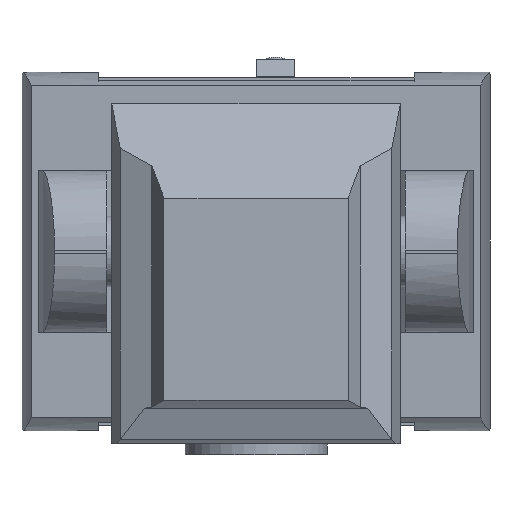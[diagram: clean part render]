
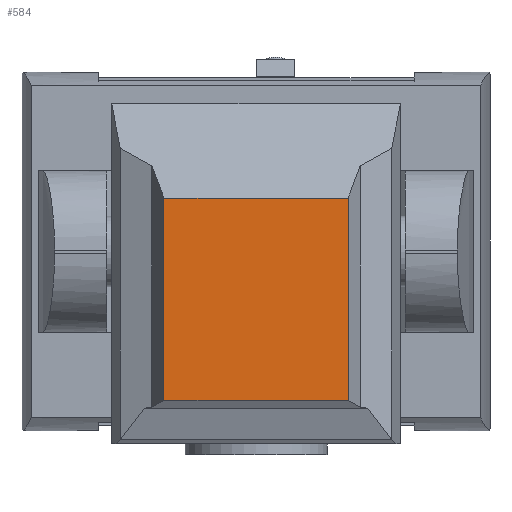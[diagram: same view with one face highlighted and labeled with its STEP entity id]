
A CAD part, left-side view. The second image highlights one B-rep face of the part: STEP entity #584.
In plain terms, the highlighted planar face has unit normal (-1, 0, 0) as drawn and (0, 0, 1) by its records, which use the part's own axes.
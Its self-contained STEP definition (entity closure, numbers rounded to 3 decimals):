
#584 = ADVANCED_FACE( '', ( #1142 ), #1143, .T. );
#1142 = FACE_OUTER_BOUND( '', #1669, .T. );
#1143 = PLANE( '', #1670 );
#1669 = EDGE_LOOP( '', ( #2835, #2836, #2837, #2838 ) );
#1670 = AXIS2_PLACEMENT_3D( '', #2839, #2840, #2841 );
#2835 = ORIENTED_EDGE( '', *, *, #3181, .T. );
#2836 = ORIENTED_EDGE( '', *, *, #3144, .F. );
#2837 = ORIENTED_EDGE( '', *, *, #3100, .F. );
#2838 = ORIENTED_EDGE( '', *, *, #3319, .T. );
#2839 = CARTESIAN_POINT( '', ( -79.945, -77.5, 71.796 ) );
#2840 = DIRECTION( '', ( 0., 0., 1. ) );
#2841 = DIRECTION( '', ( 1., 0., 0. ) );
#3100 = EDGE_CURVE( '', #3680, #3681, #3682, .T. );
#3144 = EDGE_CURVE( '', #3681, #3747, #3748, .T. );
#3181 = EDGE_CURVE( '', #3803, #3747, #3804, .T. );
#3319 = EDGE_CURVE( '', #3680, #3803, #3991, .T. );
#3680 = VERTEX_POINT( '', #4529 );
#3681 = VERTEX_POINT( '', #4530 );
#3682 = LINE( '', #4531, #4532 );
#3747 = VERTEX_POINT( '', #4620 );
#3748 = LINE( '', #4621, #4622 );
#3803 = VERTEX_POINT( '', #4742 );
#3804 = LINE( '', #4743, #4744 );
#3991 = LINE( '', #5044, #5045 );
#4529 = CARTESIAN_POINT( '', ( 28.709, -49.415, 71.796 ) );
#4530 = CARTESIAN_POINT( '', ( -79.945, -49.415, 71.796 ) );
#4531 = CARTESIAN_POINT( '', ( 283.077, -49.415, 71.796 ) );
#4532 = VECTOR( '', #5326, 1000. );
#4620 = CARTESIAN_POINT( '', ( -79.945, 49.415, 71.796 ) );
#4621 = CARTESIAN_POINT( '', ( -79.945, -77.5, 71.796 ) );
#4622 = VECTOR( '', #5371, 1000. );
#4742 = CARTESIAN_POINT( '', ( 28.709, 49.415, 71.796 ) );
#4743 = CARTESIAN_POINT( '', ( 283.077, 49.415, 71.796 ) );
#4744 = VECTOR( '', #5409, 1000. );
#5044 = CARTESIAN_POINT( '', ( 28.709, -77.5, 71.796 ) );
#5045 = VECTOR( '', #5536, 1000. );
#5326 = DIRECTION( '', ( -1., 0., 0. ) );
#5371 = DIRECTION( '', ( 0., 1., 0. ) );
#5409 = DIRECTION( '', ( -1., 0., 0. ) );
#5536 = DIRECTION( '', ( 0., 1., 0. ) );
